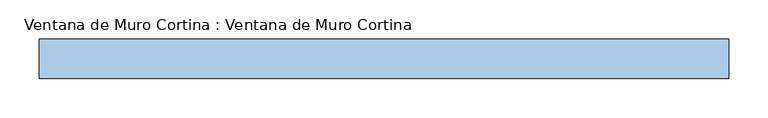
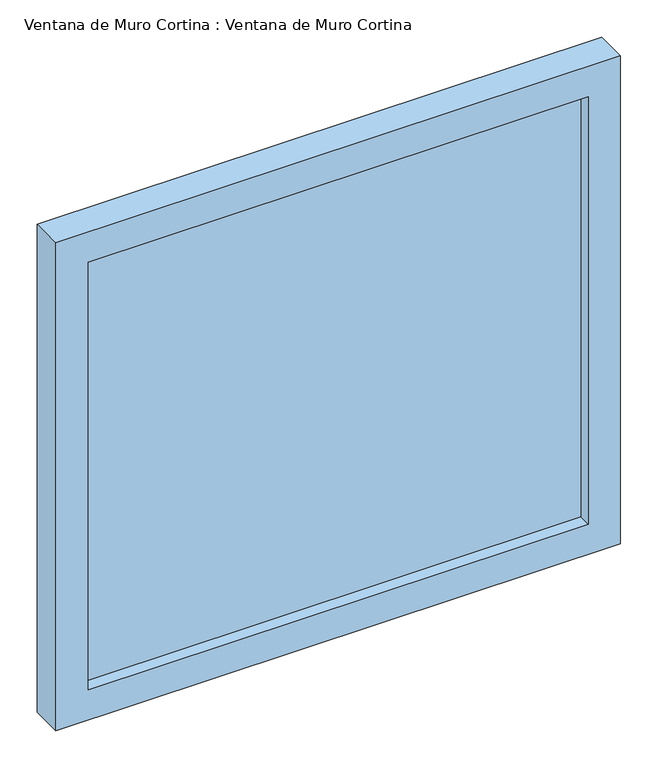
"""IFC4 building model written with IfcOpenShell, lengths in millimetres: window geometry, Ventana de Muro Cortina : Ventana de Muro Cortina."""

import ifcopenshell
import ifcopenshell.guid

model = None  # the IFC model being written
_history = None  # IfcOwnerHistory: only IFC2X3 demands one
_inside = {}  # id of a spatial element -> (the spatial element, [elements in it])
_under = {}  # id of a project, library or spatial element -> (it, [spatial elements below it])
_declared = {}  # id of a project -> (the project, [libraries it declares])
_typed = {}  # id of a type object -> (the type object, [elements of that type])
_made_of = {}  # id of a material, layer set ... -> (it, [elements and type objects made of it])


def new_model(schema):
    """Start an empty IFC model of exactly this schema.

    Asked for "IFC4X3", IfcOpenShell would pick the latest addendum, in which some entities
    have other attributes; the version numbers below select the first issue.
    IFC2X3 requires an IfcOwnerHistory on every rooted entity: one is made here for all.
    """
    global model, _history
    if schema == "IFC4X3":
        model = ifcopenshell.file(schema_version=(4, 3, 0, 0))
    else:
        model = ifcopenshell.file(schema=schema)
    _inside.clear()
    _under.clear()
    _declared.clear()
    _typed.clear()
    _made_of.clear()
    _history = None
    if model.schema == "IFC2X3":
        org = make("IfcOrganization", Name="unknown")
        user = make(
            "IfcPersonAndOrganization",
            ThePerson=make("IfcPerson", FamilyName="unknown"),
            TheOrganization=org,
        )
        app = make(
            "IfcApplication",
            ApplicationDeveloper=org,
            Version="unknown",
            ApplicationFullName="unknown",
            ApplicationIdentifier="unknown",
        )
        _history = make(
            "IfcOwnerHistory",
            OwningUser=user,
            OwningApplication=app,
            ChangeAction="ADDED",
            CreationDate=0,
        )
    return model


def make(cls, **values):
    """One entity of the class cls with the attributes given. An attribute that is None is left unset."""
    return model.create_entity(
        cls, **{name: value for name, value in values.items() if value is not None}
    )


def rooted(cls, **values):
    """An entity with a GlobalId (a new one), such as an element, a storey or a relation."""
    return make(cls, GlobalId=ifcopenshell.guid.new(), OwnerHistory=_history, **values)


def si_unit(unit_type, name, prefix=None):
    """IfcSIUnit, for example si_unit("LENGTHUNIT", "METRE", prefix="MILLI")."""
    return make("IfcSIUnit", UnitType=unit_type, Prefix=prefix, Name=name)


def assignment(units):
    """IfcUnitAssignment: the units of a project."""
    return None if units is None else make("IfcUnitAssignment", Units=units)


def point(xyz):
    """IfcCartesianPoint."""
    return None if xyz is None else make("IfcCartesianPoint", Coordinates=xyz)


def direction(xyz):
    """IfcDirection."""
    return None if xyz is None else make("IfcDirection", DirectionRatios=xyz)


def frame(location, z_axis=None, x_axis=None):
    """IfcAxis2Placement3D, a coordinate frame: its origin and axes. An axis left out is left unset."""
    return make(
        "IfcAxis2Placement3D",
        Location=point(location),
        Axis=direction(z_axis),
        RefDirection=direction(x_axis),
    )


def origin():
    """The frame at (0, 0, 0) with its axes left unset."""
    return frame((0.0, 0.0, 0.0))


def place(relative_to, where):
    """IfcLocalPlacement: puts the frame where relative to a parent placement (None: the world)."""
    return make(
        "IfcLocalPlacement", PlacementRelTo=relative_to, RelativePlacement=where
    )


def context(
    kind, dimensions, precision=None, world=None, true_north=None, identifier=None
):
    """IfcGeometricRepresentationContext, for example the 3D "Model" context."""
    return make(
        "IfcGeometricRepresentationContext",
        ContextIdentifier=identifier,
        ContextType=kind,
        CoordinateSpaceDimension=dimensions,
        Precision=precision,
        WorldCoordinateSystem=world,
        TrueNorth=true_north,
    )


def project(units=None, contexts=None):
    """IfcProject with its units and contexts."""
    return rooted(
        "IfcProject",
        Name="project",
        RepresentationContexts=contexts,
        UnitsInContext=assignment(units),
    )


def spatial(cls, under=None, at=None, **own):
    """A site, building, storey or space (cls), placed at a placement, below another one or the project."""
    s = rooted(cls, ObjectPlacement=at, **own)
    if under is not None:
        _under.setdefault(under.id(), (under, []))[1].append(s)
    return s


def polyline(points):
    """IfcPolyline through the points."""
    return make("IfcPolyline", Points=[point(p) for p in points])


def outline(outer, holes=None, kind="AREA"):
    """IfcArbitraryClosedProfileDef: a profile drawn as a closed curve; with holes, ...WithVoids."""
    if holes is None:
        return make("IfcArbitraryClosedProfileDef", ProfileType=kind, OuterCurve=outer)
    return make(
        "IfcArbitraryProfileDefWithVoids",
        ProfileType=kind,
        OuterCurve=outer,
        InnerCurves=holes,
    )


def extrude(swept, where, along, depth):
    """IfcExtrudedAreaSolid: the profile swept, set in the frame where, extruded along a direction by depth."""
    return make(
        "IfcExtrudedAreaSolid",
        SweptArea=swept,
        Position=where,
        ExtrudedDirection=direction(along),
        Depth=depth,
    )


def shape(context_of_items, identifier, shape_type, items):
    """IfcShapeRepresentation: the items that make up one representation, for example the "Body"."""
    return make(
        "IfcShapeRepresentation",
        ContextOfItems=context_of_items,
        RepresentationIdentifier=identifier,
        RepresentationType=shape_type,
        Items=items,
    )


def source(mapping_origin, context_of_items, identifier, shape_type, items):
    """IfcRepresentationMap: a shape defined once, which mapped items show again and again."""
    return make(
        "IfcRepresentationMap",
        MappingOrigin=mapping_origin,
        MappedRepresentation=shape(context_of_items, identifier, shape_type, items),
    )


def transform(
    local_origin,
    x_axis=None,
    y_axis=None,
    z_axis=None,
    scale=None,
    scale2=None,
    scale3=None,
    uniform=True,
):
    """IfcCartesianTransformationOperator3D, or its non-uniform kind. x_axis, y_axis, z_axis: its Axis1, 2, 3."""
    if uniform:
        return make(
            "IfcCartesianTransformationOperator3D",
            Axis1=direction(x_axis),
            Axis2=direction(y_axis),
            LocalOrigin=point(local_origin),
            Scale=scale,
            Axis3=direction(z_axis),
        )
    return make(
        "IfcCartesianTransformationOperator3DnonUniform",
        Axis1=direction(x_axis),
        Axis2=direction(y_axis),
        LocalOrigin=point(local_origin),
        Scale=scale,
        Axis3=direction(z_axis),
        Scale2=scale2,
        Scale3=scale3,
    )


def mapped(mapping_source, mapping_target):
    """IfcMappedItem: shows the shape of a source again, moved by a transform."""
    return make(
        "IfcMappedItem", MappingSource=mapping_source, MappingTarget=mapping_target
    )


def made_of(thing, what):
    """Note that an element or type object is made of a material, layer set ...; save() writes the relation."""
    if what is not None:
        _made_of.setdefault(what.id(), (what, []))[1].append(thing)
    return thing


def element(
    cls,
    number,
    at=None,
    inside=None,
    cuts=None,
    type_object=None,
    material=None,
    context=None,
    identifier="Body",
    shape_type=None,
    held_by="IfcProductDefinitionShape",
    body=None,
    shapes=None,
    **own,
):
    """One element of the class cls, such as IfcWall. Its Tag is "e" and its number.

    at: its placement. inside: the storey or other place that contains it. cuts: it is an
    opening in that element (IfcRelVoidsElement). A single representation is given by context,
    identifier, shape_type and body (its items); several are given by shapes. held_by: the class
    of the entity that holds the representations. save() writes the other relations.
    """
    e = rooted(cls, Tag="e%d" % number, ObjectPlacement=at, **own)
    if body is not None:
        shapes = [shape(context, identifier, shape_type, body)]
    if shapes is not None:
        e.Representation = make(held_by, Representations=shapes)
    if inside is not None:
        _inside.setdefault(inside.id(), (inside, []))[1].append(e)
    if cuts is not None:
        rooted(
            "IfcRelVoidsElement", RelatingBuildingElement=cuts, RelatedOpeningElement=e
        )
    if type_object is not None:
        _typed.setdefault(type_object.id(), (type_object, []))[1].append(e)
    return made_of(e, material)


def aggregate(whole, parts):
    """IfcRelAggregates: a whole, such as a stair, and the parts it consists of."""
    return rooted("IfcRelAggregates", RelatingObject=whole, RelatedObjects=parts)


def save(model, path):
    """Write the relations noted so far, then the file.

    IfcRelAggregates (storeys below a building ...), IfcRelContainedInSpatialStructure (elements
    in a storey), IfcRelDefinesByType, IfcRelAssociatesMaterial and IfcRelDeclares: one each for
    every whole, place, type object, material and project.
    """
    for whole, parts in _under.values():
        aggregate(whole, parts)
    for where, things in _inside.values():
        rooted(
            "IfcRelContainedInSpatialStructure",
            RelatedElements=things,
            RelatingStructure=where,
        )
    for kind, things in _typed.values():
        rooted("IfcRelDefinesByType", RelatedObjects=things, RelatingType=kind)
    for what, things in _made_of.values():
        rooted("IfcRelAssociatesMaterial", RelatedObjects=things, RelatingMaterial=what)
    for by, libraries in _declared.values():
        rooted("IfcRelDeclares", RelatingContext=by, RelatedDefinitions=libraries)
    model.write(path)


def ventana_de_muro_cortina_ventana_de_muro_cortina_e1bbbce5(model_context):
    return source(origin(), model_context, "Body", "SweptSolid", [
        extrude(outline(polyline([(387.5, -30.95), (-387.5, -30.95), (-387.5, -18.25), (387.5, -18.25), (387.5, -30.95)])), frame((0.0, 0.0, 50.0), z_axis=(0.0, 0.0, 1.0), x_axis=(1.0, 0.0, 0.0)), (0.0, 0.0, 1.0), 700.0),
        extrude(outline(polyline([(800.0, -437.5), (0.0, -437.5), (0.0, 437.5), (800.0, 437.5), (800.0, -437.5)]), holes=[polyline([(750.0, -387.5), (750.0, 387.5), (50.0, 387.5), (50.0, -387.5), (750.0, -387.5)])]), frame((0.0, -50.0, 0.0), z_axis=(0.0, 1.0, 0.0), x_axis=(0.0, 0.0, 1.0)), (0.0, 0.0, 1.0), 50.0),
    ])


if __name__ == "__main__":
    model = new_model("IFC4")
    model_context = context("Model", 3, world=origin())
    ifc_project = project(units=[si_unit("LENGTHUNIT", "METRE", prefix="MILLI")], contexts=[model_context])
    site = spatial("IfcSite", under=ifc_project)
    building = spatial("IfcBuilding", under=site)
    placement = place(None, origin())
    ventana_de_muro_cortina_ventana_de_muro_cortina_shape = ventana_de_muro_cortina_ventana_de_muro_cortina_e1bbbce5(model_context)
    element("IfcWindow", 1, ObjectType="Ventana de Muro Cortina : Ventana de Muro Cortina", at=placement, inside=building, context=model_context, shape_type="MappedRepresentation", body=[
        mapped(ventana_de_muro_cortina_ventana_de_muro_cortina_shape, transform((0.0, 0.0, 0.0), x_axis=(1.0, 0.0, 0.0), y_axis=(0.0, 1.0, 0.0), z_axis=(0.0, 0.0, 1.0))),
    ])
    save(model, "model.ifc")
